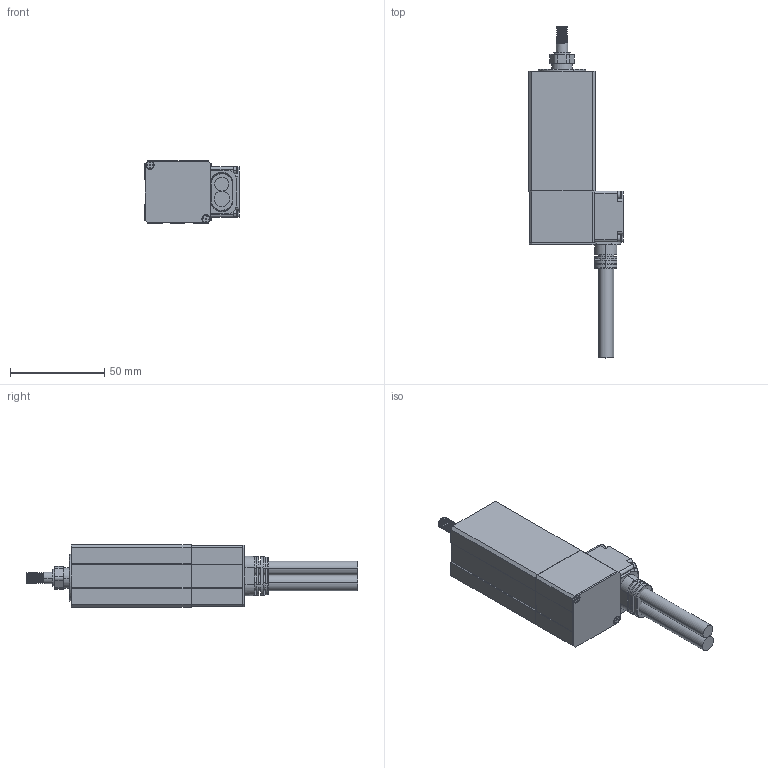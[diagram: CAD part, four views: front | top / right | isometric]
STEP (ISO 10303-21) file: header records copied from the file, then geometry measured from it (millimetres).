
FILE_DESCRIPTION (( 'STEP AP214' ), '1' );
FILE_NAME ('RCEA-3M-30-E-O-F_潠眢耀倰V1.0_20250311.STEP', '2025-03-11T06:30:37', ( '' ), ( '' ), 'SwSTEP 2.0', 'SolidWorks 2020', '' );
FILE_SCHEMA (( 'AUTOMOTIVE_DESIGN' ));
Length unit declared in the file: millimetre
Products named in the file (4): Group2^RCEA-3M-30-E-O-F_潠眢耀倰V1.0_20250311; Group3^RCEA-3M-30-E-O-F_潠眢耀倰V1.0_20250311; RCEA-3M-30-E-O-F_潠眢耀倰V1.0_20250311; Group1^RCEA-3M-30-E-O-F_潠眢耀倰V1.0_20250311
Assembly tree (3 placements, depth 2):
  RCEA-3M-30-E-O-F_潠眢耀倰V1.0_20250311
    Group1^RCEA-3M-30-E-O-F_潠眢耀倰V1.0_20250311
    Group2^RCEA-3M-30-E-O-F_潠眢耀倰V1.0_20250311
    Group3^RCEA-3M-30-E-O-F_潠眢耀倰V1.0_20250311
Bounding box: 49.85 x 176 x 33 mm (x, y, z)
Volume: 85206.4 mm3; surface area: 37791.8 mm2
Topology: 8 solids, 21 shells, 710 faces, 1789 edges, 1133 vertices
Faces by surface type: cylinder 296, plane 286, cone 114, bspline 10, torus 4
Entity records: 32549 total; most frequent: CARTESIAN_POINT 7515, DIRECTION 3598, ORIENTED_EDGE 3522, EDGE_CURVE 1763, AXIS2_PLACEMENT_3D 1294, VERTEX_POINT 1133, VECTOR 1010, LINE 1010
